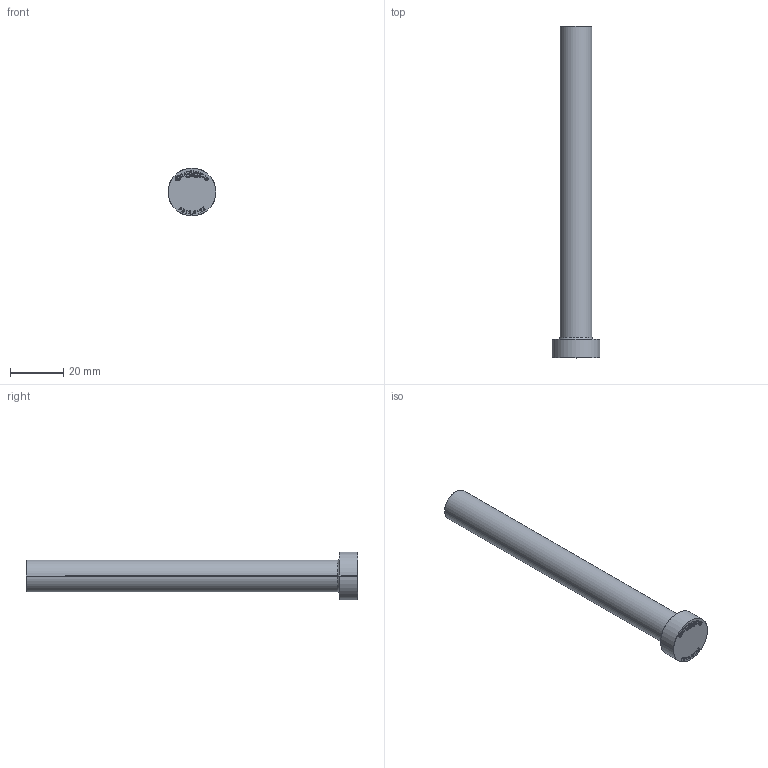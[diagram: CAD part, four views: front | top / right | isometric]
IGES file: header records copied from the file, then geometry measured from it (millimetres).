
Start section: SolidWorks IGES file using analytic representation for surfaces
Global section: file name: C:\Users\User\Downloads\Matripeça 31-08 tar\PB - PINO EXTRATOR TIPO _B_ (CATÁLOGO)\PB12,0\PB12,0125.IGS; native system: SolidWorks 2024; preprocessor: SolidWorks 2024; author: User; date: 260901.150955; units: millimetre
Bounding box: 18 x 125 x 18 mm (x, y, z)
Surface area: 5354.5 mm2 (no closed solid volume)
Topology: 0 solids, 0 shells, 396 faces, 3855 edges, 3855 vertices
Faces by surface type: bspline 382, revolution 14
